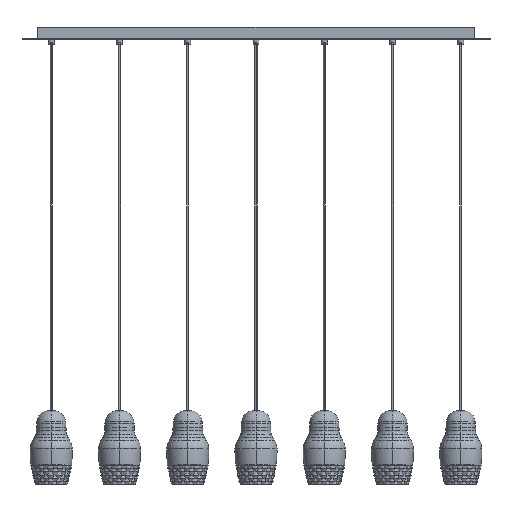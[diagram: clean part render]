
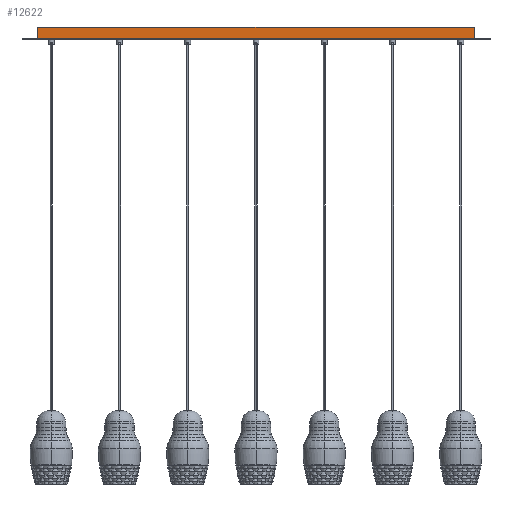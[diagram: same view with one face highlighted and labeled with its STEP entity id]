
A CAD part, top view. The second image highlights one B-rep face of the part: STEP entity #12622.
In plain terms, the highlighted planar face has unit normal (0, 0, 1).
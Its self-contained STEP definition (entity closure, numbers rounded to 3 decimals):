
#1185 = EDGE_CURVE ( 'NONE', #26141, #4652, #23598, .T. ) ;
#1482 = PLANE ( 'NONE',  #27295 ) ;
#1810 = EDGE_CURVE ( 'NONE', #26141, #25187, #27444, .T. ) ;
#3043 = CARTESIAN_POINT ( 'NONE',  ( 559.9, 28.8, 60. ) ) ;
#4652 = VERTEX_POINT ( 'NONE', #20495 ) ;
#4799 = DIRECTION ( 'NONE',  ( 1., 0., 0. ) ) ;
#5768 = CARTESIAN_POINT ( 'NONE',  ( -559.9, 28.8, 60. ) ) ;
#7313 = CARTESIAN_POINT ( 'NONE',  ( 0., 0.1, 60. ) ) ;
#7368 = CARTESIAN_POINT ( 'NONE',  ( -559.9, 28.8, 60. ) ) ;
#7677 = FACE_OUTER_BOUND ( 'NONE', #16006, .T. ) ;
#7727 = EDGE_CURVE ( 'NONE', #25187, #7999, #14775, .T. ) ;
#7999 = VERTEX_POINT ( 'NONE', #12015 ) ;
#8228 = VECTOR ( 'NONE', #26481, 1000. ) ;
#8285 = DIRECTION ( 'NONE',  ( 0., -1., 0. ) ) ;
#9811 = VECTOR ( 'NONE', #28096, 1000. ) ;
#12015 = CARTESIAN_POINT ( 'NONE',  ( 559.9, 28.8, 60. ) ) ;
#12622 = ADVANCED_FACE ( 'NONE', ( #7677 ), #1482, .T. ) ;
#12772 = ORIENTED_EDGE ( 'NONE', *, *, #1810, .F. ) ;
#13859 = CARTESIAN_POINT ( 'NONE',  ( 559.9, 0., 60. ) ) ;
#14775 = LINE ( 'NONE', #3043, #8228 ) ;
#15732 = DIRECTION ( 'NONE',  ( 0., 0., 1. ) ) ;
#16006 = EDGE_LOOP ( 'NONE', ( #12772, #30586, #25965, #23610 ) ) ;
#16068 = LINE ( 'NONE', #13859, #9811 ) ;
#19548 = DIRECTION ( 'NONE',  ( 0., 1., 0. ) ) ;
#20484 = VECTOR ( 'NONE', #4799, 1000. ) ;
#20495 = CARTESIAN_POINT ( 'NONE',  ( 559.9, 0.1, 60. ) ) ;
#22348 = CARTESIAN_POINT ( 'NONE',  ( -559.9, 0.1, 60. ) ) ;
#23598 = LINE ( 'NONE', #7313, #20484 ) ;
#23610 = ORIENTED_EDGE ( 'NONE', *, *, #7727, .F. ) ;
#25187 = VERTEX_POINT ( 'NONE', #7368 ) ;
#25965 = ORIENTED_EDGE ( 'NONE', *, *, #26939, .F. ) ;
#26141 = VERTEX_POINT ( 'NONE', #22348 ) ;
#26481 = DIRECTION ( 'NONE',  ( 1., 0., 0. ) ) ;
#26939 = EDGE_CURVE ( 'NONE', #7999, #4652, #16068, .T. ) ;
#27295 = AXIS2_PLACEMENT_3D ( 'NONE', #30271, #15732, #8285 ) ;
#27444 = LINE ( 'NONE', #5768, #29574 ) ;
#28096 = DIRECTION ( 'NONE',  ( 0., -1., 0. ) ) ;
#29574 = VECTOR ( 'NONE', #19548, 1000. ) ;
#30271 = CARTESIAN_POINT ( 'NONE',  ( 0., 0., 60. ) ) ;
#30586 = ORIENTED_EDGE ( 'NONE', *, *, #1185, .T. ) ;
